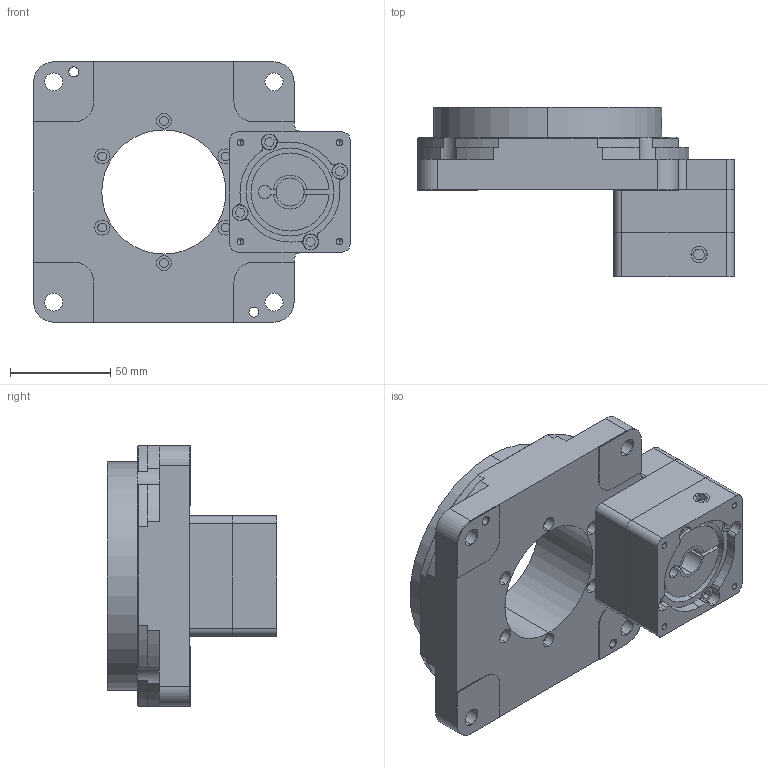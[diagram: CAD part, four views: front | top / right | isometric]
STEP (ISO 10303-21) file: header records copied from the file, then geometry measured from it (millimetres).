
FILE_DESCRIPTION (( 'STEP AP214' ), '1' );
FILE_NAME ('马拉力中空旋转平台MAK130-18比(400W伺服接口.STEP', '2024-05-09T11:06:22', ( '' ), ( '' ), 'SwSTEP 2.0', 'SolidWorks 2010', '' );
FILE_SCHEMA (( 'AUTOMOTIVE_DESIGN' ));
Length unit declared in the file: millimetre
Products named in the file (1): 马拉力中空旋转平台MAK130-18比(400W伺服接口
Bounding box: 158.1 x 84.5 x 130 mm (x, y, z)
Volume: 584708 mm3; surface area: 101819.5 mm2
Topology: 7 solids, 7 shells, 473 faces, 1228 edges, 792 vertices
Faces by surface type: cylinder 194, plane 152, bspline 87, cone 40
Entity records: 19995 total; most frequent: CARTESIAN_POINT 7597, ORIENTED_EDGE 2392, DIRECTION 2192, EDGE_CURVE 1196, AXIS2_PLACEMENT_3D 807, VERTEX_POINT 792, VECTOR 578, LINE 578
